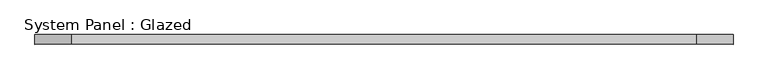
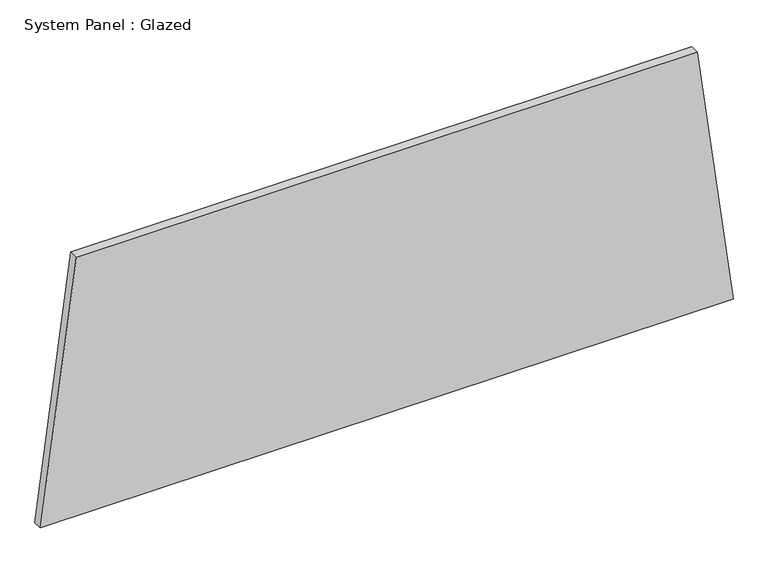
"""IFC4 building model written with IfcOpenShell, lengths in millimetres: plate geometry, System Panel : Glazed."""

from ifc_helpers import new_model, si_unit, frame, origin, place, context, project, spatial, polyline, outline, extrude, source, transform, mapped, element, save


def system_panel_glazed_fc471d4c(model_context):
    return source(origin(), model_context, "Body", "SweptSolid", [
        extrude(outline(polyline([(0.0, -924.5323077), (0.0, 924.5323077), (730.1376435, 828.8318917), (730.1376435, -828.8318917), (0.0, -924.5323077)])), frame((0.0, 19.05, 0.0), z_axis=(0.0, 1.0, 0.0), x_axis=(0.0, 0.0, 1.0)), (0.0, 0.0, 1.0), 25.4),
    ])


if __name__ == "__main__":
    model = new_model("IFC4")
    model_context = context("Model", 3, world=origin())
    ifc_project = project(units=[si_unit("LENGTHUNIT", "METRE", prefix="MILLI")], contexts=[model_context])
    site = spatial("IfcSite", under=ifc_project)
    building = spatial("IfcBuilding", under=site)
    placement = place(None, origin())
    system_panel_glazed_shape = system_panel_glazed_fc471d4c(model_context)
    element("IfcPlate", 1, ObjectType="System Panel : Glazed", at=placement, inside=building, context=model_context, shape_type="MappedRepresentation", body=[
        mapped(system_panel_glazed_shape, transform((0.0, 0.0, 0.0), x_axis=(1.0, 0.0, 0.0), y_axis=(0.0, 1.0, 0.0), z_axis=(0.0, 0.0, 1.0))),
    ])
    save(model, "model.ifc")
